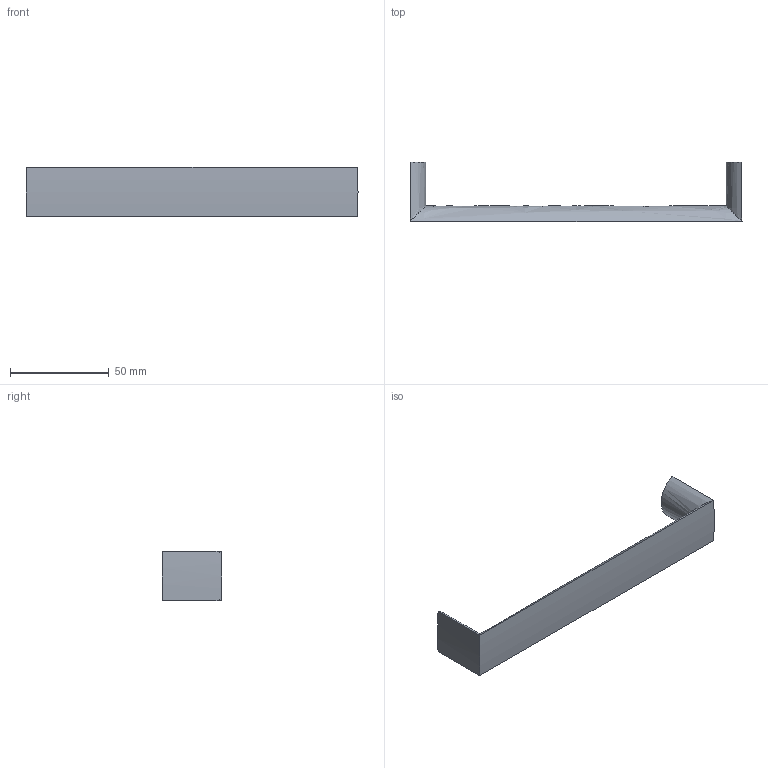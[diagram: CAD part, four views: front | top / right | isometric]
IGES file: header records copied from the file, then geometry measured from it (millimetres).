
Start section: Data from Parasolid IGES Translator 15.0.47, Copyright(c) 2006 Siemens P LM Software. All Rights Reserved.
Global section: file name: 9120198.igs; native system:  By UGS Corp.; preprocessor: XPlus GENERIC/IGES 3.0; author: Noname; organization: Noname; date: 20140123.102750; units: millimetre
Bounding box: 168 x 30 x 25 mm (x, y, z)
Surface area: 12569.3 mm2 (no closed solid volume)
Topology: 0 solids, 0 shells, 12 faces, 40 edges, 38 vertices
Faces by surface type: revolution 8, extrusion 4
